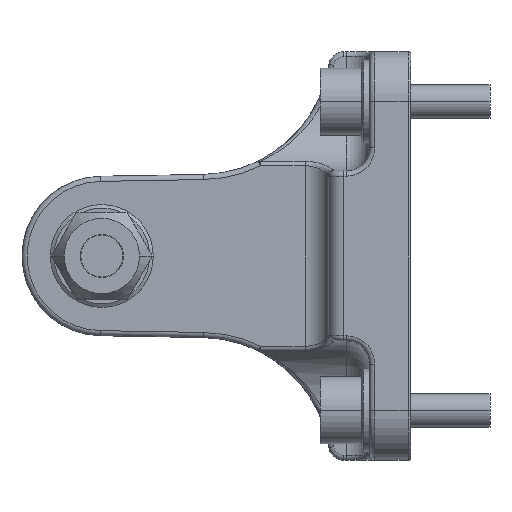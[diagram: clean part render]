
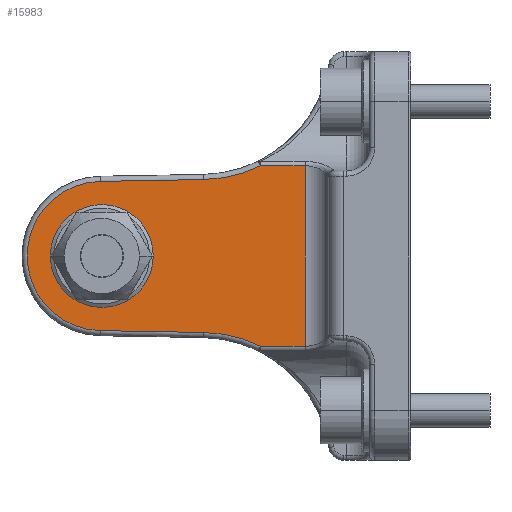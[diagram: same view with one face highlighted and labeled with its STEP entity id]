
A CAD part, left-side view. The second image highlights one B-rep face of the part: STEP entity #15983.
In plain terms, the highlighted planar face has unit normal (-1, 0, 0).
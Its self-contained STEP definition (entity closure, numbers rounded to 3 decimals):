
#862 = DIRECTION ( 'NONE',  ( 0., 0., 1. ) ) ;
#1141 = EDGE_CURVE ( 'NONE', #4557, #11362, #16366, .T. ) ;
#1175 = ORIENTED_EDGE ( 'NONE', *, *, #22489, .T. ) ;
#1179 = AXIS2_PLACEMENT_3D ( 'NONE', #32376, #2336, #14624 ) ;
#1325 = CARTESIAN_POINT ( 'NONE',  ( -23.6, 0.253, 14.498 ) ) ;
#1684 = CARTESIAN_POINT ( 'NONE',  ( -23.6, 0.253, 14.498 ) ) ;
#1768 = VERTEX_POINT ( 'NONE', #1325 ) ;
#2015 = DIRECTION ( 'NONE',  ( 0., 1., 0. ) ) ;
#2086 = LINE ( 'NONE', #13981, #37033 ) ;
#2200 = CARTESIAN_POINT ( 'NONE',  ( -23.6, -19.316, -40.843 ) ) ;
#2336 = DIRECTION ( 'NONE',  ( 1., 0., 0. ) ) ;
#2583 = ORIENTED_EDGE ( 'NONE', *, *, #36799, .F. ) ;
#2605 = CARTESIAN_POINT ( 'NONE',  ( -23.6, 5.909, -1.042 ) ) ;
#2628 = CARTESIAN_POINT ( 'NONE',  ( -23.6, 0., 0. ) ) ;
#2851 = DIRECTION ( 'NONE',  ( 0., 0., -1. ) ) ;
#3037 = FACE_BOUND ( 'NONE', #24454, .T. ) ;
#3125 = VERTEX_POINT ( 'NONE', #31942 ) ;
#3156 = VERTEX_POINT ( 'NONE', #9954 ) ;
#4320 = CARTESIAN_POINT ( 'NONE',  ( -23.6, -39.5, -17.53 ) ) ;
#4557 = VERTEX_POINT ( 'NONE', #2605 ) ;
#5472 = CIRCLE ( 'NONE', #31050, 6. ) ;
#5888 = ORIENTED_EDGE ( 'NONE', *, *, #38271, .T. ) ;
#6994 = ORIENTED_EDGE ( 'NONE', *, *, #31681, .T. ) ;
#7478 = CARTESIAN_POINT ( 'NONE',  ( -23.6, 0., 17.53 ) ) ;
#7830 = CARTESIAN_POINT ( 'NONE',  ( -23.6, 0., -17.53 ) ) ;
#8660 = DIRECTION ( 'NONE',  ( 0., 0., 1. ) ) ;
#9249 = CARTESIAN_POINT ( 'NONE',  ( -23.6, -30.827, -17.53 ) ) ;
#9452 = EDGE_CURVE ( 'NONE', #23254, #33944, #36205, .T. ) ;
#9954 = CARTESIAN_POINT ( 'NONE',  ( -23.6, -19.77, 14.847 ) ) ;
#10617 = DIRECTION ( 'NONE',  ( -1., 0., 0. ) ) ;
#10654 = CIRCLE ( 'NONE', #15623, 14.5 ) ;
#11158 = CIRCLE ( 'NONE', #1179, 26. ) ;
#11167 = EDGE_CURVE ( 'NONE', #16819, #38555, #2086, .T. ) ;
#11362 = VERTEX_POINT ( 'NONE', #37537 ) ;
#11441 = AXIS2_PLACEMENT_3D ( 'NONE', #2200, #26192, #34595 ) ;
#12190 = FACE_OUTER_BOUND ( 'NONE', #28039, .T. ) ;
#12688 = CARTESIAN_POINT ( 'NONE',  ( -23.6, 0., 0. ) ) ;
#12894 = DIRECTION ( 'NONE',  ( -1., 0., 0. ) ) ;
#13137 = CARTESIAN_POINT ( 'NONE',  ( -23.6, 0., 0. ) ) ;
#13845 = CARTESIAN_POINT ( 'NONE',  ( -23.6, 0.253, -14.498 ) ) ;
#13981 = CARTESIAN_POINT ( 'NONE',  ( -23.6, -19.77, -14.847 ) ) ;
#14527 = DIRECTION ( 'NONE',  ( -1., 0., 0. ) ) ;
#14624 = DIRECTION ( 'NONE',  ( 0., 0., 1. ) ) ;
#15623 = AXIS2_PLACEMENT_3D ( 'NONE', #12688, #12894, #22080 ) ;
#15663 = ORIENTED_EDGE ( 'NONE', *, *, #33893, .T. ) ;
#15884 = DIRECTION ( 'NONE',  ( -1., 0., 0. ) ) ;
#15983 = ADVANCED_FACE ( 'NONE', ( #3037, #12190 ), #26275, .T. ) ;
#16366 = CIRCLE ( 'NONE', #24517, 6. ) ;
#16819 = VERTEX_POINT ( 'NONE', #13845 ) ;
#17063 = CIRCLE ( 'NONE', #11441, 26. ) ;
#17112 = DIRECTION ( 'NONE',  ( 0., -1., -0.017 ) ) ;
#17332 = ORIENTED_EDGE ( 'NONE', *, *, #11167, .T. ) ;
#17442 = ORIENTED_EDGE ( 'NONE', *, *, #27284, .T. ) ;
#17992 = ORIENTED_EDGE ( 'NONE', *, *, #1141, .F. ) ;
#18811 = CARTESIAN_POINT ( 'NONE',  ( -23.6, -39.5, 0. ) ) ;
#18846 = EDGE_CURVE ( 'NONE', #23230, #3156, #11158, .T. ) ;
#19440 = CARTESIAN_POINT ( 'NONE',  ( -23.6, -19.77, -14.847 ) ) ;
#19751 = DIRECTION ( 'NONE',  ( 0., -1., 0. ) ) ;
#22080 = DIRECTION ( 'NONE',  ( 0., 0., 1. ) ) ;
#22489 = EDGE_CURVE ( 'NONE', #38555, #23964, #17063, .T. ) ;
#22705 = LINE ( 'NONE', #7830, #32595 ) ;
#23049 = VECTOR ( 'NONE', #2015, 1000. ) ;
#23230 = VERTEX_POINT ( 'NONE', #31074 ) ;
#23254 = VERTEX_POINT ( 'NONE', #4320 ) ;
#23676 = CARTESIAN_POINT ( 'NONE',  ( -23.6, -39.5, 17.53 ) ) ;
#23945 = CARTESIAN_POINT ( 'NONE',  ( -23.6, 0., 0. ) ) ;
#23964 = VERTEX_POINT ( 'NONE', #9249 ) ;
#24454 = EDGE_LOOP ( 'NONE', ( #17992, #24545, #2583 ) ) ;
#24517 = AXIS2_PLACEMENT_3D ( 'NONE', #37509, #10617, #25265 ) ;
#24545 = ORIENTED_EDGE ( 'NONE', *, *, #34788, .F. ) ;
#25063 = DIRECTION ( 'NONE',  ( 0., 0., 1. ) ) ;
#25265 = DIRECTION ( 'NONE',  ( 0., 0., 1. ) ) ;
#25881 = LINE ( 'NONE', #1684, #36271 ) ;
#25979 = ORIENTED_EDGE ( 'NONE', *, *, #18846, .T. ) ;
#26192 = DIRECTION ( 'NONE',  ( 1., 0., 0. ) ) ;
#26275 = PLANE ( 'NONE',  #30649 ) ;
#27284 = EDGE_CURVE ( 'NONE', #3156, #1768, #25881, .T. ) ;
#28039 = EDGE_LOOP ( 'NONE', ( #30114, #6994, #25979, #17442, #5888, #17332, #1175, #15663 ) ) ;
#30114 = ORIENTED_EDGE ( 'NONE', *, *, #9452, .T. ) ;
#30649 = AXIS2_PLACEMENT_3D ( 'NONE', #23945, #32907, #2851 ) ;
#31050 = AXIS2_PLACEMENT_3D ( 'NONE', #2628, #14527, #8660 ) ;
#31074 = CARTESIAN_POINT ( 'NONE',  ( -23.6, -30.827, 17.53 ) ) ;
#31178 = VECTOR ( 'NONE', #862, 1000. ) ;
#31423 = CIRCLE ( 'NONE', #36408, 6. ) ;
#31681 = EDGE_CURVE ( 'NONE', #33944, #23230, #34808, .T. ) ;
#31942 = CARTESIAN_POINT ( 'NONE',  ( -23.6, -5.909, -1.042 ) ) ;
#32376 = CARTESIAN_POINT ( 'NONE',  ( -23.6, -19.316, 40.843 ) ) ;
#32595 = VECTOR ( 'NONE', #19751, 1000. ) ;
#32907 = DIRECTION ( 'NONE',  ( -1., 0., 0. ) ) ;
#33893 = EDGE_CURVE ( 'NONE', #23964, #23254, #22705, .T. ) ;
#33944 = VERTEX_POINT ( 'NONE', #23676 ) ;
#34595 = DIRECTION ( 'NONE',  ( 0., 0., 1. ) ) ;
#34657 = DIRECTION ( 'NONE',  ( 0., 1., -0.017 ) ) ;
#34788 = EDGE_CURVE ( 'NONE', #3125, #4557, #31423, .T. ) ;
#34808 = LINE ( 'NONE', #7478, #23049 ) ;
#36205 = LINE ( 'NONE', #18811, #31178 ) ;
#36271 = VECTOR ( 'NONE', #34657, 1000. ) ;
#36408 = AXIS2_PLACEMENT_3D ( 'NONE', #13137, #15884, #25063 ) ;
#36799 = EDGE_CURVE ( 'NONE', #11362, #3125, #5472, .T. ) ;
#37033 = VECTOR ( 'NONE', #17112, 1000. ) ;
#37509 = CARTESIAN_POINT ( 'NONE',  ( -23.6, 0., 0. ) ) ;
#37537 = CARTESIAN_POINT ( 'NONE',  ( -23.6, 0., -6. ) ) ;
#38271 = EDGE_CURVE ( 'NONE', #1768, #16819, #10654, .T. ) ;
#38555 = VERTEX_POINT ( 'NONE', #19440 ) ;
